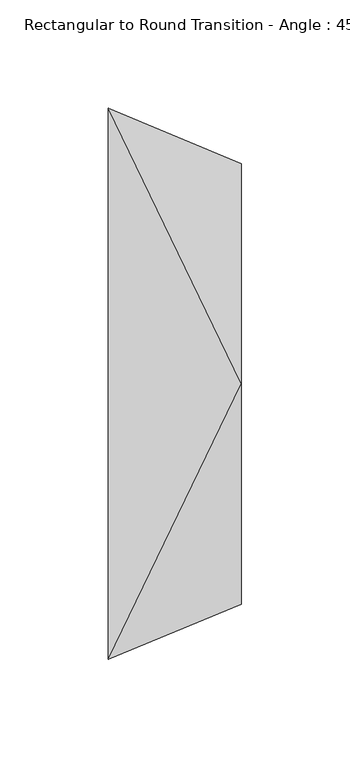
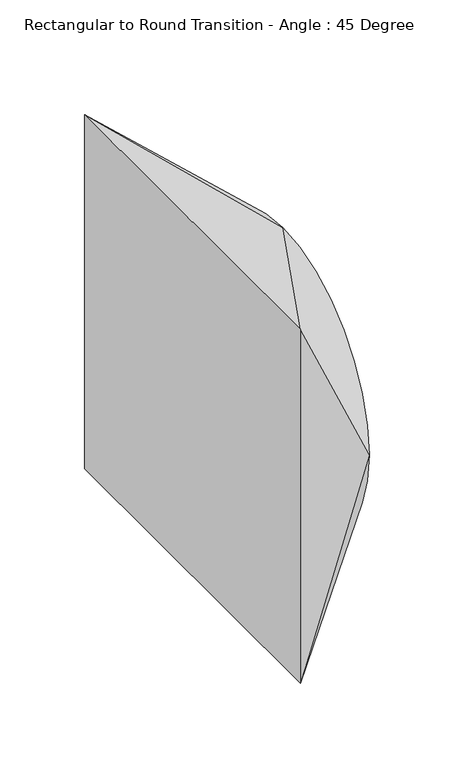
"""IFC4 building model written with IfcOpenShell, lengths in millimetres: duct fitting geometry, Rectangular to Round Transition - Angle : 45 Degree."""

from ifc_helpers import new_model, si_unit, frame, origin, place, context, project, spatial, circle_curve, source, transform, mapped, element, save
from ifc_brep_helpers import plane_surface, spline_surface, advanced_brep


def rectangular_to_round_transition_angle_45_degree_544928fe(model_context):
    return source(origin(), model_context, "Body", "AdvancedBrep", [
        advanced_brep(
        [(61.3210245, 0.0, 101.6), (61.3210245, -101.6, 0.0), (61.3210245, 0.0, -101.6), (61.3210245, 101.6, 0.0), (0.0, -127.0, 127.0), (0.0, 127.0, 127.0), (0.0, 127.0, -127.0), (0.0, -127.0, -127.0)],
        [
            (0, 1, circle_curve(frame((61.3210245, 0.0, 0.0), z_axis=(1.0, 0.0, 0.0), x_axis=(0.0, 1.0, 0.0)), 101.6)),
            (1, 2, circle_curve(frame((61.3210245, 0.0, 0.0), z_axis=(1.0, 0.0, 0.0), x_axis=(0.0, 1.0, 0.0)), 101.6)),
            (2, 3, circle_curve(frame((61.3210245, 0.0, 0.0), z_axis=(1.0, 0.0, 0.0), x_axis=(0.0, 1.0, 0.0)), 101.6)),
            (3, 0, circle_curve(frame((61.3210245, 0.0, 0.0), z_axis=(1.0, 0.0, 0.0), x_axis=(0.0, 1.0, 0.0)), 101.6)),
            (4, 5),
            (5, 6),
            (6, 7),
            (7, 4),
            (0, 4),
            (4, 1),
            (7, 1),
            (7, 2),
            (6, 2),
            (6, 3),
            (5, 3),
            (5, 0),
        ],
        [
            plane_surface(frame((61.3210245, 0.0, 0.0), z_axis=(1.0, 0.0, 0.0), x_axis=(0.0, 0.0, -1.0))),
            plane_surface(frame((0.0, 0.0, 0.0), z_axis=(-1.0, 0.0, 0.0), x_axis=(0.0, 0.0, -1.0))),
            spline_surface(2, 1, [[(0.0, -127.0, 127.0), (61.3210245, 0.0, 101.6)], [(0.0, -127.0, 127.0), (61.3210245, -101.6, 101.6)], [(0.0, -127.0, 127.0), (61.3210245, -101.6, 0.0)]], [3, 3], [2, 2], [0.0, 1.0], [0.0, 1.0], weights=[[1.0, 1.0], [0.7071067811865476, 0.7071067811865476], [1.0, 1.0]]),
            plane_surface(frame((0.0, -127.0, 0.0), z_axis=(0.3826834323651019, -0.9238795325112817, 0.0), x_axis=(0.0, 0.0, -1.0))),
            spline_surface(2, 1, [[(0.0, -127.0, -127.0), (61.3210245, -101.6, 0.0)], [(0.0, -127.0, -127.0), (61.3210245, -101.6, -101.6)], [(0.0, -127.0, -127.0), (61.3210245, 0.0, -101.6)]], [3, 3], [2, 2], [0.0, 1.0], [0.0, 1.0], weights=[[1.0, 1.0], [0.7071067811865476, 0.7071067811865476], [1.0, 1.0]]),
            plane_surface(frame((0.0, 0.0, -127.0), z_axis=(0.38268343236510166, 0.0, -0.9238795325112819), x_axis=(0.0, 1.0, 0.0))),
            spline_surface(2, 1, [[(0.0, 127.0, -127.0), (61.3210245, 0.0, -101.6)], [(0.0, 127.0, -127.0), (61.3210245, 101.6, -101.6)], [(0.0, 127.0, -127.0), (61.3210245, 101.6, 0.0)]], [3, 3], [2, 2], [0.0, 1.0], [0.0, 1.0], weights=[[1.0, 1.0], [0.7071067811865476, 0.7071067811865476], [1.0, 1.0]]),
            plane_surface(frame((0.0, 127.0, 0.0), z_axis=(0.382683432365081, 0.9238795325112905, 0.0), x_axis=(0.0, 0.0, 1.0))),
            spline_surface(2, 1, [[(0.0, 127.0, 127.0), (61.3210245, 101.6, 0.0)], [(0.0, 127.0, 127.0), (61.3210245, 101.6, 101.6)], [(0.0, 127.0, 127.0), (61.3210245, 0.0, 101.6)]], [3, 3], [2, 2], [0.0, 1.0], [0.0, 1.0], weights=[[1.0, 1.0], [0.7071067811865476, 0.7071067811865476], [1.0, 1.0]]),
            plane_surface(frame((0.0, 0.0, 127.0), z_axis=(0.38268343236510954, 0.0, 0.9238795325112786), x_axis=(0.0, -1.0, 0.0))),
        ],
        [
            (0, [[1, 2, 3, 4]]),
            (1, [[5, 6, 7, 8]]),
            (2, [[-1, 9, 10]]),
            (3, [[-8, 11, -10]]),
            (4, [[-2, -11, 12]]),
            (5, [[-7, 13, -12]]),
            (6, [[-3, -13, 14]]),
            (7, [[-6, 15, -14]]),
            (8, [[-4, -15, 16]]),
            (9, [[-5, -9, -16]]),
        ],
    ),
    ])


if __name__ == "__main__":
    model = new_model("IFC4")
    model_context = context("Model", 3, world=origin())
    ifc_project = project(units=[si_unit("LENGTHUNIT", "METRE", prefix="MILLI")], contexts=[model_context])
    site = spatial("IfcSite", under=ifc_project)
    building = spatial("IfcBuilding", under=site)
    placement = place(None, origin())
    rectangular_to_round_transition_angle_45_degree_shape = rectangular_to_round_transition_angle_45_degree_544928fe(model_context)
    element("IfcDuctFitting", 1, ObjectType="Rectangular to Round Transition - Angle : 45 Degree", at=placement, inside=building, context=model_context, shape_type="MappedRepresentation", body=[
        mapped(rectangular_to_round_transition_angle_45_degree_shape, transform((0.0, 0.0, 0.0), x_axis=(1.0, 0.0, 0.0), y_axis=(0.0, 1.0, 0.0), z_axis=(0.0, 0.0, 1.0))),
    ])
    save(model, "model.ifc")
